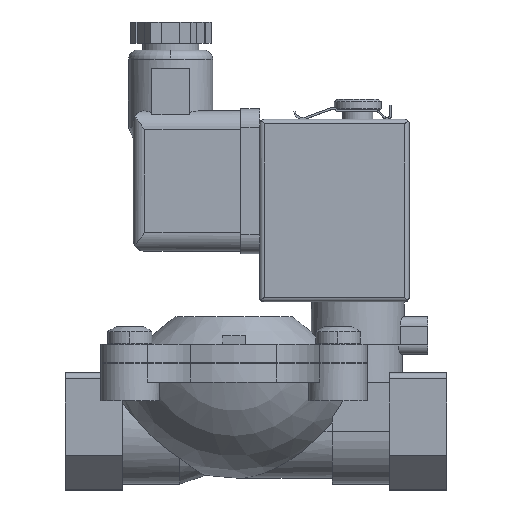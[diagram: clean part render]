
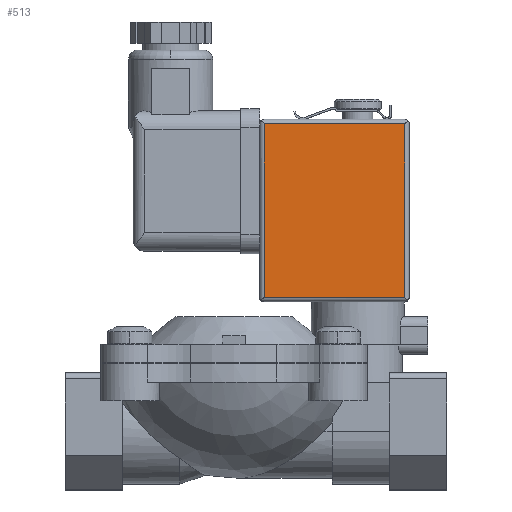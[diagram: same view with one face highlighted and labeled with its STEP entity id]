
A CAD part, top view. The second image highlights one B-rep face of the part: STEP entity #513.
In plain terms, the highlighted planar face has unit normal (0, 0, 1).
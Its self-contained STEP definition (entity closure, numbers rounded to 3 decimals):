
#513=ADVANCED_FACE('',(#1563),#1564,.T.);
#1563=FACE_OUTER_BOUND('',#2793,.T.);
#1564=PLANE('',#2794);
#2793=EDGE_LOOP('',(#6851,#6852,#6853,#6854));
#2794=AXIS2_PLACEMENT_3D('',#6855,#6856,#6857);
#6851=ORIENTED_EDGE('',*,*,#9462,.T.);
#6852=ORIENTED_EDGE('',*,*,#9470,.F.);
#6853=ORIENTED_EDGE('',*,*,#9448,.F.);
#6854=ORIENTED_EDGE('',*,*,#9471,.T.);
#6855=CARTESIAN_POINT('',(57.5,47.2,11.0));
#6856=DIRECTION('',(0.0,0.0,1.0));
#6857=DIRECTION('',(1.0,0.0,0.0));
#9448=EDGE_CURVE('',#11911,#11902,#11913,.T.);
#9462=EDGE_CURVE('',#11941,#11939,#11942,.T.);
#9470=EDGE_CURVE('',#11902,#11939,#11955,.T.);
#9471=EDGE_CURVE('',#11911,#11941,#11956,.T.);
#11902=VERTEX_POINT('',#17714);
#11911=VERTEX_POINT('',#17724);
#11913=LINE('',#17726,#17727);
#11939=VERTEX_POINT('',#17757);
#11941=VERTEX_POINT('',#17759);
#11942=LINE('',#17760,#17761);
#11955=LINE('',#17776,#17777);
#11956=LINE('',#17778,#17779);
#17714=CARTESIAN_POINT('',(42.5,65.7,11.0));
#17724=CARTESIAN_POINT('',(42.5,28.7,11.0));
#17726=CARTESIAN_POINT('',(42.5,47.2,11.0));
#17727=VECTOR('',#21536,1.0);
#17757=CARTESIAN_POINT('',(72.5,65.7,11.0));
#17759=CARTESIAN_POINT('',(72.5,28.7,11.0));
#17760=CARTESIAN_POINT('',(72.5,47.2,11.0));
#17761=VECTOR('',#21568,1.0);
#17776=CARTESIAN_POINT('',(57.5,65.7,11.0));
#17777=VECTOR('',#21586,1.0);
#17778=CARTESIAN_POINT('',(57.5,28.7,11.0));
#17779=VECTOR('',#21587,1.0);
#21536=DIRECTION('',(0.0,1.0,0.));
#21568=DIRECTION('',(0.0,1.0,0.));
#21586=DIRECTION('',(1.0,0.0,0.));
#21587=DIRECTION('',(1.0,0.0,0.));
